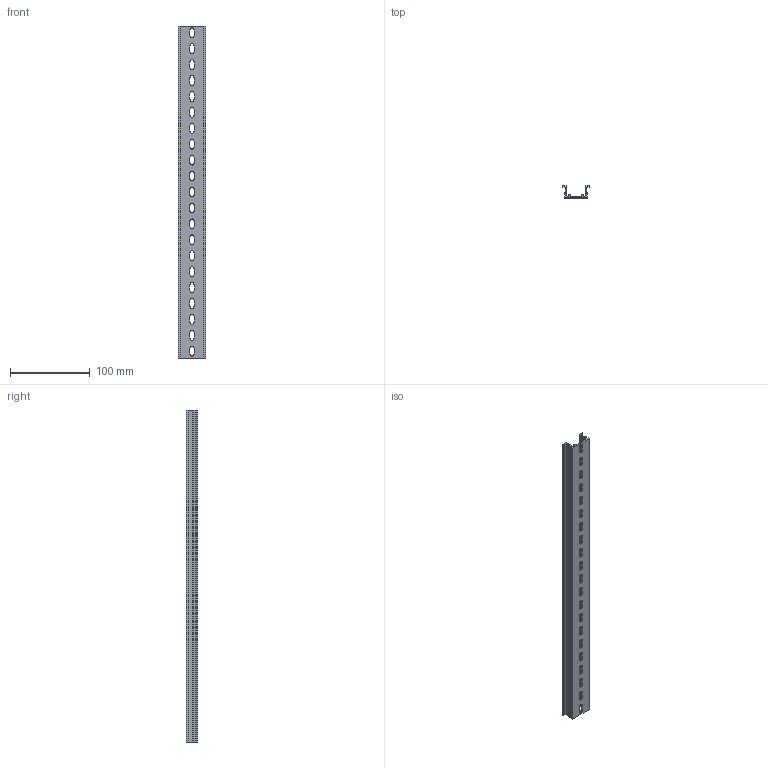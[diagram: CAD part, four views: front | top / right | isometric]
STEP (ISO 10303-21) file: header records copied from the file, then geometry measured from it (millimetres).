
FILE_DESCRIPTION(/* description */ (''),/* implementation_level */ '2;1');
FILE_NAME(/* name */ '22648-(TKB KD-21)HP 3D.stp',/* time_stamp */ '2024-12-05T14:03:34+09:00',/* author */ ('usercadg104'),/* organization */ (''),/* preprocessor_version */ 'ST-DEVELOPER v19.2',/* originating_system */ 'Autodesk Inventor 2023',/* authorisation */ '');
FILE_SCHEMA (('CONFIG_CONTROL_DESIGN'));
Length unit declared in the file: millimetre
Products named in the file (1): TKB KD-3(林)
Bounding box: 35 x 15 x 417 mm (x, y, z)
Volume: 48780.3 mm3; surface area: 56449.2 mm2
Topology: 1 solids, 1 shells, 124 faces, 366 edges, 244 vertices
Faces by surface type: plane 78, cylinder 46
Entity records: 4269 total; most frequent: CARTESIAN_POINT 735, ORIENTED_EDGE 732, DIRECTION 708, EDGE_CURVE 366, LINE 274, VECTOR 274, VERTEX_POINT 244, AXIS2_PLACEMENT_3D 217
